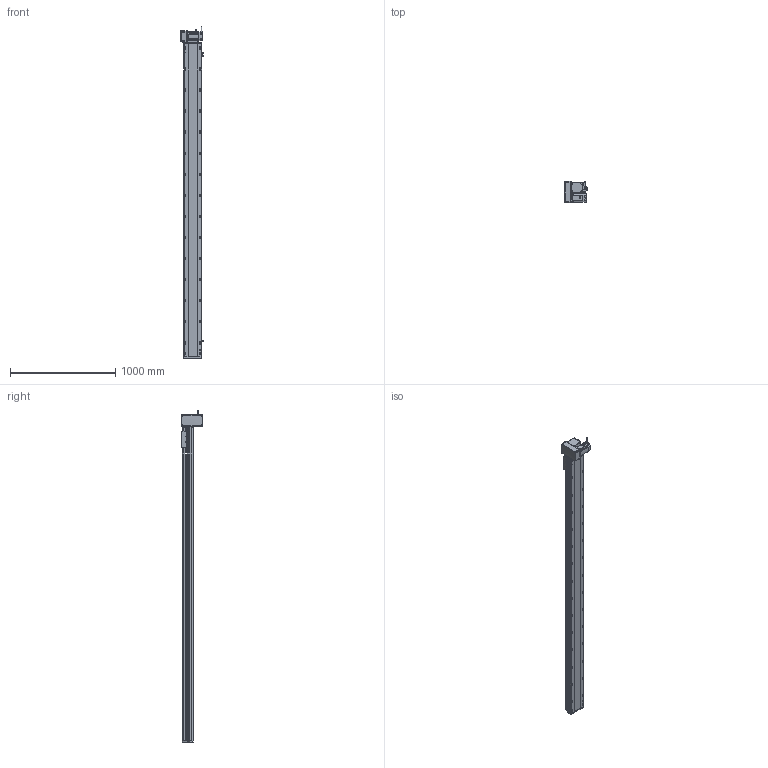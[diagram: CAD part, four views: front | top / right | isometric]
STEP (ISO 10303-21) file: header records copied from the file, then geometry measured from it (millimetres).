
FILE_DESCRIPTION (( 'STEP AP214' ), '1' );
FILE_NAME ('RTB17S-XX-2700-LM-M75-C4.STEP', '2025-12-12T00:48:01', ( '' ), ( '' ), 'SwSTEP 2.0', 'SolidWorks 2018', '' );
FILE_SCHEMA (( 'AUTOMOTIVE_DESIGN' ));
Length unit declared in the file: millimetre
Products named in the file (15): RTB17S-L-007奻裔^RTB17S-XX-XX-LM-M75-C4; 750W萇儂^RTB17S-XX-XX-LM-M75-C4; RTB17S-賑釱^RTB17S-XX-XX-LM-M75-C4; RTB22S-GY-005P^RTB17S-LM-々湍釱蚾饜-750W_RTB17S-XX-XX-LM-M75-C4; RTB22S-GY-017P^RTB17S-LM-々湍釱蚾饜-750W_RTB17S-XX-XX-LM-M75-C4; RTB17S-L-014-T20-P75--々湍釱^RTB17S-LM-々湍釱蚾饜-750W_RTB17S-XX-XX-LM-M75-C4; RTB17S-XX-2700-LM-M75-C4; RTB17S-L-004-賑釱^RTB17S-賑釱_RTB17S-XX-XX-LM-M75-C4; RTH13-BL-012覜茼え俋离^RTB17S-賑釱_RTB17S-XX-XX-LM-M75-C4; RTB17S-LM-々湍釱蚾饜-750W^RTB17S-XX-XX-LM-M75-C4; RTB17S-L-001-耜醱啣^RTB17S-XX-XX-LM-M75-C4; RTB22S-GY-018P^RTB17S-LM-々湍釱蚾饜-750W_RTB17S-XX-XX-LM-M75-C4; EE672^RTB17S-XX-XX-LM-M75-C4; RTB17-R-011菁釱^RTB17S-XX-XX-LM-M75-C4; RTB22S-GY-008-M75--萇儂啣^RTB17S-LM-々湍釱蚾饜-750W_RTB17S-XX-XX-LM-M75-C4
Assembly tree (17 placements, depth 3):
  RTB17S-XX-2700-LM-M75-C4
    RTB17-R-011菁釱^RTB17S-XX-XX-LM-M75-C4
    EE672^RTB17S-XX-XX-LM-M75-C4  x3
    RTB17S-L-001-耜醱啣^RTB17S-XX-XX-LM-M75-C4
    RTB17S-賑釱^RTB17S-XX-XX-LM-M75-C4
      RTB17S-L-004-賑釱^RTB17S-賑釱_RTB17S-XX-XX-LM-M75-C4
      RTH13-BL-012覜茼え俋离^RTB17S-賑釱_RTB17S-XX-XX-LM-M75-C4
    RTB17S-L-007奻裔^RTB17S-XX-XX-LM-M75-C4
    750W萇儂^RTB17S-XX-XX-LM-M75-C4
    RTB17S-LM-々湍釱蚾饜-750W^RTB17S-XX-XX-LM-M75-C4
      RTB17S-L-014-T20-P75--々湍釱^RTB17S-LM-々湍釱蚾饜-750W_RTB17S-XX-XX-LM-M75-C4
      RTB22S-GY-005P^RTB17S-LM-々湍釱蚾饜-750W_RTB17S-XX-XX-LM-M75-C4
      RTB22S-GY-017P^RTB17S-LM-々湍釱蚾饜-750W_RTB17S-XX-XX-LM-M75-C4  x2
      RTB22S-GY-008-M75--萇儂啣^RTB17S-LM-々湍釱蚾饜-750W_RTB17S-XX-XX-LM-M75-C4
      RTB22S-GY-018P^RTB17S-LM-々湍釱蚾饜-750W_RTB17S-XX-XX-LM-M75-C4
Bounding box: 210.4 x 200 x 3152.2 mm (x, y, z)
Volume: 22825488 mm3; surface area: 4159978 mm2
Topology: 17 solids, 17 shells, 2233 faces, 6268 edges, 4058 vertices
Faces by surface type: plane 988, cylinder 829, bspline 294, cone 110, sphere 8, torus 4
Entity records: 65014 total; most frequent: CARTESIAN_POINT 19332, ORIENTED_EDGE 9380, DIRECTION 8672, EDGE_CURVE 4690, AXIS2_PLACEMENT_3D 3078, VERTEX_POINT 3062, VECTOR 2516, LINE 2516
